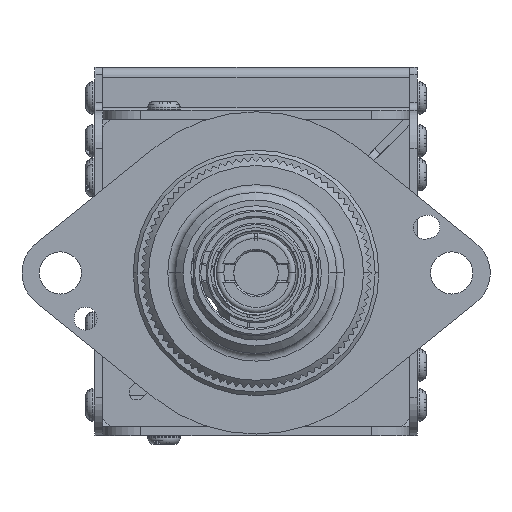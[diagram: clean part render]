
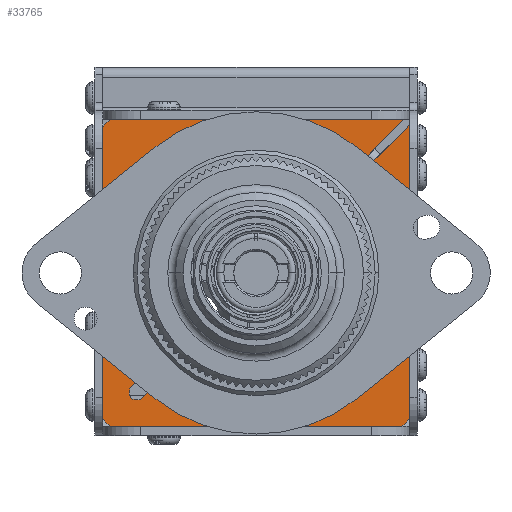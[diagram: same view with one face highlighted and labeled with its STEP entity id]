
A CAD part, front view. The second image highlights one B-rep face of the part: STEP entity #33765.
In plain terms, the highlighted planar face has unit normal (0, -1, 0).
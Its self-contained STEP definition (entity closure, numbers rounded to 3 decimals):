
#156 = DIRECTION ( 'NONE',  ( 0., -1., 0. ) ) ;
#1234 = DIRECTION ( 'NONE',  ( -0.707, 0., -0.707 ) ) ;
#2782 = EDGE_CURVE ( 'NONE', #20652, #46465, #48783, .T. ) ;
#4150 = CARTESIAN_POINT ( 'NONE',  ( -20., -6.9, 20. ) ) ;
#4240 = EDGE_CURVE ( 'NONE', #50895, #18719, #9137, .T. ) ;
#4509 = VERTEX_POINT ( 'NONE', #16017 ) ;
#4580 = DIRECTION ( 'NONE',  ( 0., 0., -1. ) ) ;
#5224 = CARTESIAN_POINT ( 'NONE',  ( -13.061, -6.9, -11.647 ) ) ;
#5279 = AXIS2_PLACEMENT_3D ( 'NONE', #6337, #50954, #34737 ) ;
#5464 = ORIENTED_EDGE ( 'NONE', *, *, #46286, .T. ) ;
#5714 = EDGE_CURVE ( 'NONE', #22275, #50895, #44232, .T. ) ;
#6277 = VERTEX_POINT ( 'NONE', #34877 ) ;
#6337 = CARTESIAN_POINT ( 'NONE',  ( 0., -6.9, 0. ) ) ;
#6602 = CARTESIAN_POINT ( 'NONE',  ( -20., -6.9, -20. ) ) ;
#6680 = VECTOR ( 'NONE', #35724, 1000. ) ;
#6814 = EDGE_CURVE ( 'NONE', #18719, #6277, #37587, .T. ) ;
#7593 = VERTEX_POINT ( 'NONE', #25278 ) ;
#7747 = LINE ( 'NONE', #24199, #36065 ) ;
#7826 = DIRECTION ( 'NONE',  ( 0.707, 0., -0.707 ) ) ;
#8005 = DIRECTION ( 'NONE',  ( 0., 0., -1. ) ) ;
#8955 = EDGE_CURVE ( 'NONE', #42719, #38525, #7747, .T. ) ;
#9137 = LINE ( 'NONE', #32535, #16159 ) ;
#10068 = VECTOR ( 'NONE', #24610, 1000. ) ;
#11191 = CARTESIAN_POINT ( 'NONE',  ( -15.556, -6.9, -15.556 ) ) ;
#11457 = LINE ( 'NONE', #31334, #49168 ) ;
#11462 = DIRECTION ( 'NONE',  ( 0., -1., 0. ) ) ;
#11652 = CARTESIAN_POINT ( 'NONE',  ( 19., -6.9, 20. ) ) ;
#11827 = VERTEX_POINT ( 'NONE', #42597 ) ;
#11965 = CARTESIAN_POINT ( 'NONE',  ( 0.707, -6.9, -0.707 ) ) ;
#12062 = CARTESIAN_POINT ( 'NONE',  ( 19., -6.9, -20. ) ) ;
#12131 = EDGE_CURVE ( 'NONE', #13137, #47730, #18114, .T. ) ;
#12281 = EDGE_CURVE ( 'NONE', #43263, #38525, #11457, .T. ) ;
#12805 = ORIENTED_EDGE ( 'NONE', *, *, #34080, .T. ) ;
#13137 = VERTEX_POINT ( 'NONE', #12062 ) ;
#13647 = VECTOR ( 'NONE', #51075, 1000. ) ;
#14122 = DIRECTION ( 'NONE',  ( 0.707, 0., 0.707 ) ) ;
#14315 = FACE_OUTER_BOUND ( 'NONE', #32091, .T. ) ;
#14742 = DIRECTION ( 'NONE',  ( 0.707, 0., 0.707 ) ) ;
#15295 = ORIENTED_EDGE ( 'NONE', *, *, #29653, .F. ) ;
#15755 = CARTESIAN_POINT ( 'NONE',  ( -19., -6.9, 20. ) ) ;
#16017 = CARTESIAN_POINT ( 'NONE',  ( -20., -6.9, 19. ) ) ;
#16159 = VECTOR ( 'NONE', #16857, 1000. ) ;
#16350 = VECTOR ( 'NONE', #7826, 1000. ) ;
#16693 = VERTEX_POINT ( 'NONE', #24283 ) ;
#16857 = DIRECTION ( 'NONE',  ( -0.707, 0., -0.707 ) ) ;
#17157 = LINE ( 'NONE', #36805, #44320 ) ;
#17718 = CARTESIAN_POINT ( 'NONE',  ( 12.016, -6.9, 12.723 ) ) ;
#18114 = LINE ( 'NONE', #42251, #31313 ) ;
#18527 = VECTOR ( 'NONE', #1234, 1000. ) ;
#18719 = VERTEX_POINT ( 'NONE', #33569 ) ;
#19018 = LINE ( 'NONE', #31999, #6680 ) ;
#19059 = ORIENTED_EDGE ( 'NONE', *, *, #51782, .F. ) ;
#19099 = DIRECTION ( 'NONE',  ( 0., 0., -1. ) ) ;
#19300 = ORIENTED_EDGE ( 'NONE', *, *, #6814, .F. ) ;
#19666 = CARTESIAN_POINT ( 'NONE',  ( -20., -6.9, -20. ) ) ;
#19931 = ORIENTED_EDGE ( 'NONE', *, *, #8955, .F. ) ;
#20652 = VERTEX_POINT ( 'NONE', #33464 ) ;
#20766 = EDGE_CURVE ( 'NONE', #4509, #11827, #34240, .T. ) ;
#21344 = ORIENTED_EDGE ( 'NONE', *, *, #22107, .T. ) ;
#21499 = ORIENTED_EDGE ( 'NONE', *, *, #2782, .T. ) ;
#21630 = CARTESIAN_POINT ( 'NONE',  ( -14.849, -6.9, -16.263 ) ) ;
#21924 = EDGE_CURVE ( 'NONE', #16693, #13137, #39831, .T. ) ;
#22107 = EDGE_CURVE ( 'NONE', #7593, #20652, #28604, .T. ) ;
#22275 = VERTEX_POINT ( 'NONE', #17718 ) ;
#22541 = PLANE ( 'NONE',  #5279 ) ;
#23473 = CARTESIAN_POINT ( 'NONE',  ( -19., -6.9, -20. ) ) ;
#24128 = DIRECTION ( 'NONE',  ( -0.707, 0., 0.707 ) ) ;
#24199 = CARTESIAN_POINT ( 'NONE',  ( 12.723, -6.9, 12.016 ) ) ;
#24283 = CARTESIAN_POINT ( 'NONE',  ( -19., -6.9, -20. ) ) ;
#24414 = LINE ( 'NONE', #11965, #18527 ) ;
#24610 = DIRECTION ( 'NONE',  ( -1., 0., 0. ) ) ;
#25202 = EDGE_CURVE ( 'NONE', #46465, #4509, #17157, .T. ) ;
#25258 = CARTESIAN_POINT ( 'NONE',  ( 0., -6.9, 0. ) ) ;
#25278 = CARTESIAN_POINT ( 'NONE',  ( 19.146, -6.9, 19.854 ) ) ;
#25828 = AXIS2_PLACEMENT_3D ( 'NONE', #49012, #156, #48764 ) ;
#26554 = CARTESIAN_POINT ( 'NONE',  ( 20., -6.9, 19. ) ) ;
#26765 = CARTESIAN_POINT ( 'NONE',  ( 20., -6.9, -19. ) ) ;
#27070 = AXIS2_PLACEMENT_3D ( 'NONE', #25258, #40972, #4580 ) ;
#27721 = CARTESIAN_POINT ( 'NONE',  ( 19.854, -6.9, 19.146 ) ) ;
#28094 = AXIS2_PLACEMENT_3D ( 'NONE', #47815, #48071, #39566 ) ;
#28604 = LINE ( 'NONE', #11652, #31849 ) ;
#28809 = DIRECTION ( 'NONE',  ( -0.707, 0., -0.707 ) ) ;
#29653 = EDGE_CURVE ( 'NONE', #6277, #44653, #48758, .T. ) ;
#30048 = VECTOR ( 'NONE', #19099, 1000. ) ;
#31135 = VERTEX_POINT ( 'NONE', #44345 ) ;
#31313 = VECTOR ( 'NONE', #14122, 1000. ) ;
#31334 = CARTESIAN_POINT ( 'NONE',  ( 19., -6.9, 20. ) ) ;
#31849 = VECTOR ( 'NONE', #24128, 1000. ) ;
#31999 = CARTESIAN_POINT ( 'NONE',  ( 12.016, -6.9, 12.723 ) ) ;
#32091 = EDGE_LOOP ( 'NONE', ( #42890, #15295, #19300, #38859, #41275, #34835, #21344, #21499, #48044, #32976, #12805, #38071, #34741, #5464, #48510, #19931, #19059 ) ) ;
#32535 = CARTESIAN_POINT ( 'NONE',  ( -0.707, -6.9, 0.707 ) ) ;
#32976 = ORIENTED_EDGE ( 'NONE', *, *, #20766, .T. ) ;
#33464 = CARTESIAN_POINT ( 'NONE',  ( 19., -6.9, 20. ) ) ;
#33569 = CARTESIAN_POINT ( 'NONE',  ( -16.263, -6.9, -14.849 ) ) ;
#33765 = ADVANCED_FACE ( 'NONE', ( #14315 ), #22541, .F. ) ;
#34080 = EDGE_CURVE ( 'NONE', #11827, #16693, #35401, .T. ) ;
#34240 = LINE ( 'NONE', #6602, #30048 ) ;
#34737 = DIRECTION ( 'NONE',  ( 0., 0., 1. ) ) ;
#34741 = ORIENTED_EDGE ( 'NONE', *, *, #12131, .T. ) ;
#34835 = ORIENTED_EDGE ( 'NONE', *, *, #44418, .F. ) ;
#34877 = CARTESIAN_POINT ( 'NONE',  ( -15.556, -6.9, -16.556 ) ) ;
#35067 = DIRECTION ( 'NONE',  ( -0.707, 0., 0.707 ) ) ;
#35401 = LINE ( 'NONE', #23473, #16350 ) ;
#35724 = DIRECTION ( 'NONE',  ( -0.707, 0., -0.707 ) ) ;
#36065 = VECTOR ( 'NONE', #14742, 1000. ) ;
#36805 = CARTESIAN_POINT ( 'NONE',  ( -20., -6.9, 19. ) ) ;
#37587 = CIRCLE ( 'NONE', #45225, 1. ) ;
#38071 = ORIENTED_EDGE ( 'NONE', *, *, #21924, .T. ) ;
#38525 = VERTEX_POINT ( 'NONE', #27721 ) ;
#38859 = ORIENTED_EDGE ( 'NONE', *, *, #4240, .F. ) ;
#39494 = VECTOR ( 'NONE', #52066, 1000. ) ;
#39566 = DIRECTION ( 'NONE',  ( 0., 0., -1. ) ) ;
#39618 = CARTESIAN_POINT ( 'NONE',  ( 20., -6.9, -20. ) ) ;
#39831 = LINE ( 'NONE', #19666, #39494 ) ;
#40972 = DIRECTION ( 'NONE',  ( 0., -1., 0. ) ) ;
#41275 = ORIENTED_EDGE ( 'NONE', *, *, #5714, .F. ) ;
#41397 = CARTESIAN_POINT ( 'NONE',  ( 12.723, -6.9, 12.016 ) ) ;
#42251 = CARTESIAN_POINT ( 'NONE',  ( 20., -6.9, -19. ) ) ;
#42597 = CARTESIAN_POINT ( 'NONE',  ( -20., -6.9, -19. ) ) ;
#42719 = VERTEX_POINT ( 'NONE', #41397 ) ;
#42890 = ORIENTED_EDGE ( 'NONE', *, *, #50900, .T. ) ;
#43263 = VERTEX_POINT ( 'NONE', #26554 ) ;
#43366 = LINE ( 'NONE', #39618, #13647 ) ;
#44232 = CIRCLE ( 'NONE', #28094, 17.5 ) ;
#44320 = VECTOR ( 'NONE', #28809, 1000. ) ;
#44345 = CARTESIAN_POINT ( 'NONE',  ( -11.647, -6.9, -13.061 ) ) ;
#44418 = EDGE_CURVE ( 'NONE', #7593, #22275, #19018, .T. ) ;
#44653 = VERTEX_POINT ( 'NONE', #21630 ) ;
#45225 = AXIS2_PLACEMENT_3D ( 'NONE', #11191, #11462, #8005 ) ;
#45749 = CIRCLE ( 'NONE', #27070, 17.5 ) ;
#46286 = EDGE_CURVE ( 'NONE', #47730, #43263, #43366, .T. ) ;
#46465 = VERTEX_POINT ( 'NONE', #15755 ) ;
#47730 = VERTEX_POINT ( 'NONE', #26765 ) ;
#47815 = CARTESIAN_POINT ( 'NONE',  ( 0., -6.9, 0. ) ) ;
#48044 = ORIENTED_EDGE ( 'NONE', *, *, #25202, .T. ) ;
#48071 = DIRECTION ( 'NONE',  ( 0., -1., 0. ) ) ;
#48510 = ORIENTED_EDGE ( 'NONE', *, *, #12281, .T. ) ;
#48758 = CIRCLE ( 'NONE', #25828, 1. ) ;
#48764 = DIRECTION ( 'NONE',  ( 0., 0., -1. ) ) ;
#48783 = LINE ( 'NONE', #4150, #10068 ) ;
#49012 = CARTESIAN_POINT ( 'NONE',  ( -15.556, -6.9, -15.556 ) ) ;
#49168 = VECTOR ( 'NONE', #35067, 1000. ) ;
#50895 = VERTEX_POINT ( 'NONE', #5224 ) ;
#50900 = EDGE_CURVE ( 'NONE', #31135, #44653, #24414, .T. ) ;
#50954 = DIRECTION ( 'NONE',  ( 0., 1., 0. ) ) ;
#51075 = DIRECTION ( 'NONE',  ( 0., 0., 1. ) ) ;
#51782 = EDGE_CURVE ( 'NONE', #31135, #42719, #45749, .T. ) ;
#52066 = DIRECTION ( 'NONE',  ( 1., 0., 0. ) ) ;
